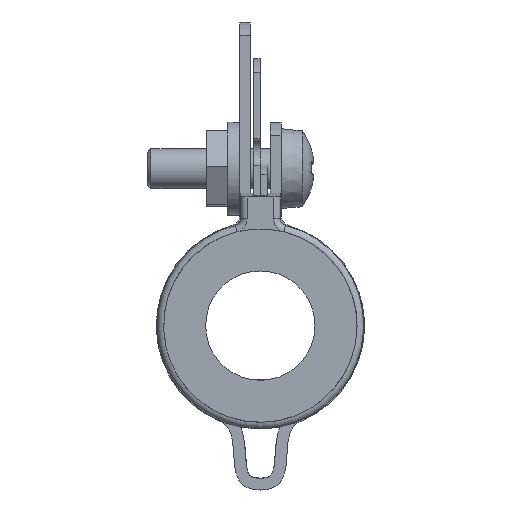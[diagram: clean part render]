
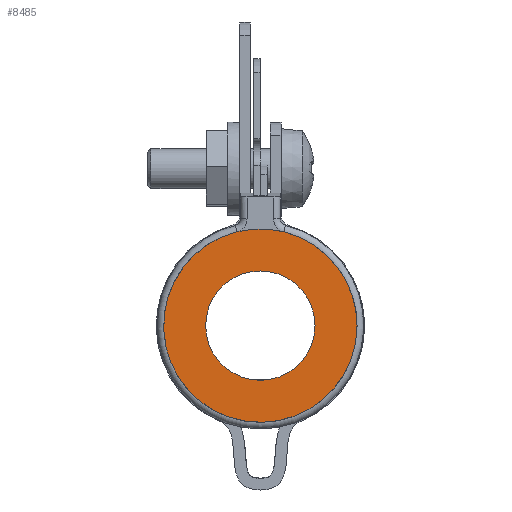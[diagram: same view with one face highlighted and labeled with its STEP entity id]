
A CAD part, front view. The second image highlights one B-rep face of the part: STEP entity #8485.
In plain terms, the highlighted planar face has unit normal (0, -1, 0).
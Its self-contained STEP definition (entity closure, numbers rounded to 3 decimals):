
#166=FACE_BOUND($,#1330,.T.);
#764=FACE_OUTER_BOUND($,#1329,.T.);
#1329=EDGE_LOOP($,(#7175));
#1330=EDGE_LOOP($,(#7176));
#1751=CIRCLE($,#9287,7.25);
#1756=CIRCLE($,#9360,4.1);
#3824=VERTEX_POINT($,#14368);
#3835=VERTEX_POINT($,#14462);
#4940=EDGE_CURVE($,#3824,#3824,#1751,.T.);
#4955=EDGE_CURVE($,#3835,#3835,#1756,.T.);
#7175=ORIENTED_EDGE($,*,*,#4940,.T.);
#7176=ORIENTED_EDGE($,*,*,#4955,.T.);
#7547=PLANE($,#9363);
#8485=ADVANCED_FACE($,(#764,#166),#7547,.T.);
#9287=AXIS2_PLACEMENT_3D($,#14369,#11597,#11598);
#9360=AXIS2_PLACEMENT_3D($,#14463,#11753,#11754);
#9363=AXIS2_PLACEMENT_3D($,#14466,#11759,#11760);
#11597=DIRECTION('center_axis',(0.,-1.,0.));
#11598=DIRECTION('ref_axis',(-1.,0.,0.));
#11753=DIRECTION('center_axis',(0.,1.,0.));
#11754=DIRECTION('ref_axis',(1.,0.,0.));
#11759=DIRECTION('center_axis',(0.,-1.,0.));
#11760=DIRECTION('ref_axis',(0.,0.,-1.));
#14368=CARTESIAN_POINT('',(7.25,0.,0.));
#14369=CARTESIAN_POINT('Origin',(0.,0.,0.));
#14462=CARTESIAN_POINT('',(-4.1,0.,0.));
#14463=CARTESIAN_POINT('Origin',(0.,0.,0.));
#14466=CARTESIAN_POINT('Origin',(0.,0.,0.));
